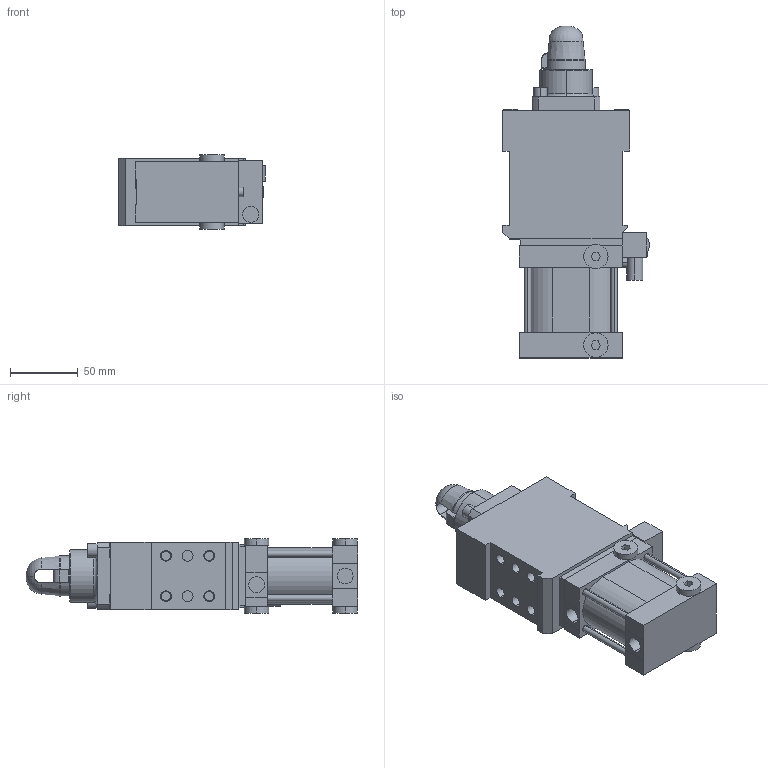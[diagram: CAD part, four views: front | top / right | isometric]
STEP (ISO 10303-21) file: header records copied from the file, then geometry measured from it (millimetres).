
FILE_DESCRIPTION (( 'STEP AP203' ), '1' );
FILE_NAME ('dca50ri-09640nt3.STEP', '2020-04-14T12:40:45', ( '' ), ( '' ), 'SwSTEP 2.0', 'SolidWorks 2019', '' );
FILE_SCHEMA (( 'CONFIG_CONTROL_DESIGN' ));
Length unit declared in the file: millimetre
Products named in the file (1): dca50ri-09640nt3
Bounding box: 108.6 x 245.5 x 55 mm (x, y, z)
Volume: 750207.2 mm3; surface area: 121854.8 mm2
Topology: 11 solids, 11 shells, 432 faces, 1013 edges, 667 vertices
Faces by surface type: plane 254, cylinder 156, cone 14, torus 8
Entity records: 12639 total; most frequent: CARTESIAN_POINT 2363, DIRECTION 2176, ORIENTED_EDGE 2026, EDGE_CURVE 1013, AXIS2_PLACEMENT_3D 766, VERTEX_POINT 667, VECTOR 644, LINE 644
